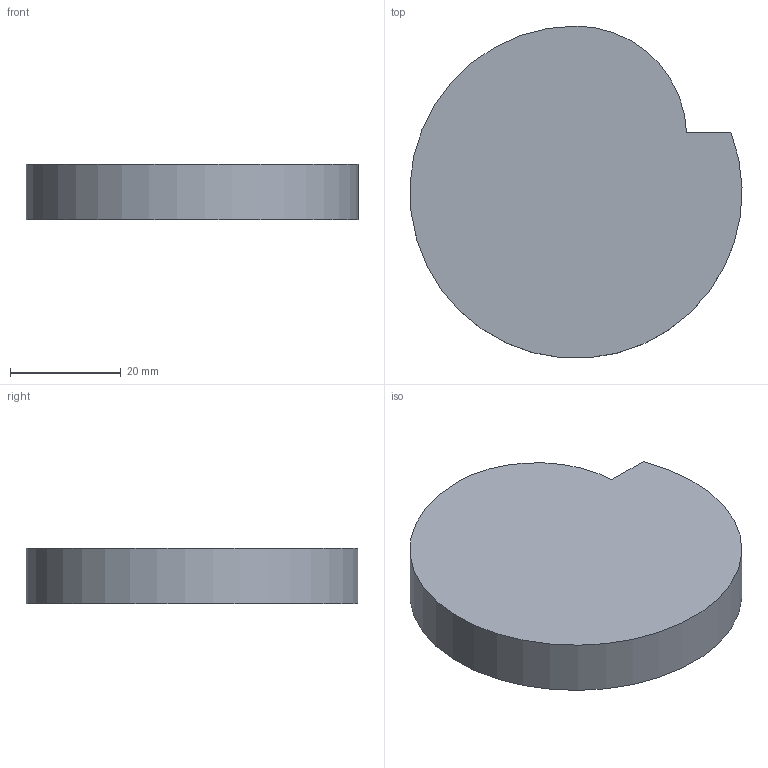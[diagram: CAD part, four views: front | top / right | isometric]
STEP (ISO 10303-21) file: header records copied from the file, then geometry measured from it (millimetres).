
FILE_DESCRIPTION(('FreeCAD Model'),'2;1');
FILE_NAME('/home/alexandre/Bureau/Cours-FreeCAD/Exercices/Exo-5.step', '2016-05-29T16:16:29',('Almisuifre'),(''), 'Open CASCADE STEP processor 6.8','FreeCAD','Unknown');
FILE_SCHEMA(('AUTOMOTIVE_DESIGN_CC2 { 1 2 10303 214 -1 1 5 4 }'));
Length unit declared in the file: millimetre
Products named in the file (2): ASSEMBLY; Pad
Assembly tree (1 placements, depth 2):
  ASSEMBLY
    Pad
Bounding box: 59.95 x 59.91 x 10 mm (x, y, z)
Volume: 27357 mm3; surface area: 7381.8 mm2
Topology: 1 solids, 1 shells, 5 faces, 9 edges, 6 vertices
Faces by surface type: plane 3, cylinder 2
Entity records: 295 total; most frequent: CARTESIAN_POINT 64, DIRECTION 41, LINE 19, VECTOR 19, ORIENTED_EDGE 18, PCURVE 18, DEFINITIONAL_REPRESENTATION 18, AXIS2_PLACEMENT_3D 11
